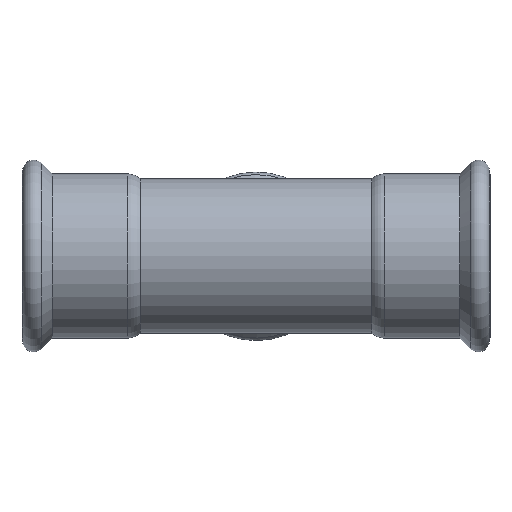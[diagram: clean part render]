
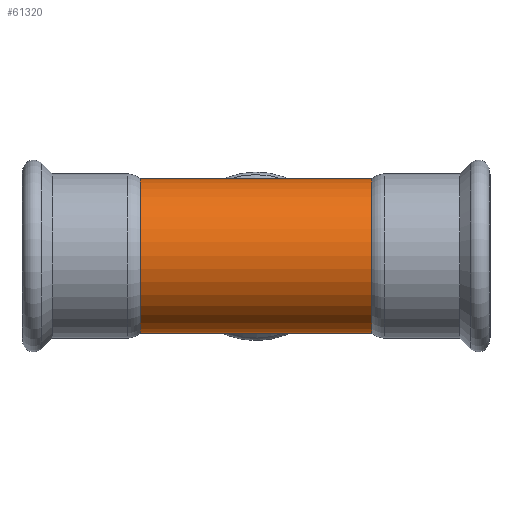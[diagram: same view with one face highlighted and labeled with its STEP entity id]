
A CAD part, top view. The second image highlights one B-rep face of the part: STEP entity #61320.
In plain terms, the highlighted cylindrical face has radius 38.05 mm (diameter 76.1 mm), a partial arc.
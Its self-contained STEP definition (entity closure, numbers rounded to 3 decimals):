
#210=CARTESIAN_POINT('',(15.9,0.,0.));
#220=DIRECTION('',(1.,0.,0.));
#230=DIRECTION('',(0.,1.,0.));
#240=AXIS2_PLACEMENT_3D('',#210,#220,#230);
#250=CIRCLE('',#240,38.05);
#260=CARTESIAN_POINT('',(15.9,38.05,0.));
#270=VERTEX_POINT('',#260);
#280=CARTESIAN_POINT('',(15.9,-38.05,0.));
#290=VERTEX_POINT('',#280);
#300=EDGE_CURVE('',#270,#290,#250,.T.);
#570=CARTESIAN_POINT('',(-98.1,0.,0.));
#580=DIRECTION('',(1.,0.,0.));
#590=DIRECTION('',(0.,1.,0.));
#600=AXIS2_PLACEMENT_3D('',#570,#580,#590);
#610=CIRCLE('',#600,38.05);
#620=CARTESIAN_POINT('',(-98.1,38.05,0.));
#630=VERTEX_POINT('',#620);
#640=CARTESIAN_POINT('',(-98.1,-38.05,0.));
#650=VERTEX_POINT('',#640);
#660=EDGE_CURVE('',#630,#650,#610,.T.);
#30440=CARTESIAN_POINT('',(5.,0.,0.));
#30450=DIRECTION('',(1.,0.,0.));
#30460=DIRECTION('',(0.,1.,0.));
#30470=AXIS2_PLACEMENT_3D('',#30440,#30450,#30460);
#30480=CYLINDRICAL_SURFACE('',#30470,38.05);
#30490=CARTESIAN_POINT('',(5.,-38.05,0.));
#30500=DIRECTION('',(1.,0.,0.));
#30510=VECTOR('',#30500,1.);
#30520=LINE('',#30490,#30510);
#30530=EDGE_CURVE('',#650,#290,#30520,.T.);
#30560=CARTESIAN_POINT('',(5.,38.05,0.));
#30570=DIRECTION('',(1.,0.,0.));
#30580=VECTOR('',#30570,1.);
#30590=LINE('',#30560,#30580);
#30600=EDGE_CURVE('',#630,#270,#30590,.T.);
#61260=ORIENTED_EDGE('',*,*,#300,.F.);
#61270=ORIENTED_EDGE('',*,*,#30530,.T.);
#61280=ORIENTED_EDGE('',*,*,#660,.T.);
#61290=ORIENTED_EDGE('',*,*,#30600,.F.);
#61300=EDGE_LOOP('',(#61290,#61280,#61270,#61260));
#61310=FACE_OUTER_BOUND('',#61300,.T.);
#61320=ADVANCED_FACE('',(#61310),#30480,.T.);
